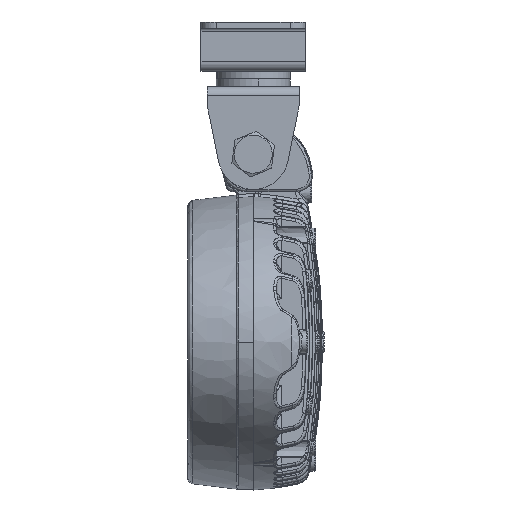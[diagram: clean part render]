
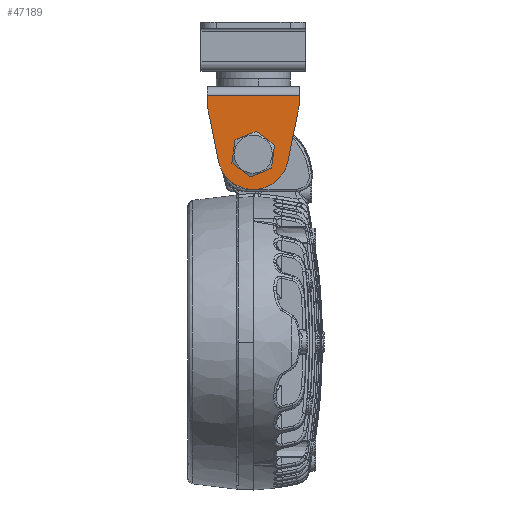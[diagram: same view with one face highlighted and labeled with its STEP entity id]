
A CAD part, left-side view. The second image highlights one B-rep face of the part: STEP entity #47189.
In plain terms, the highlighted planar face has unit normal (-1, 0, 0).
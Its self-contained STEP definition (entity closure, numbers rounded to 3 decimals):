
#8043 = CARTESIAN_POINT ( 'NONE',  ( -18.05, 0., -20. ) ) ;
#8087 = EDGE_CURVE ( 'NONE', #92948, #97919, #160375, .T. ) ;
#8983 = ORIENTED_EDGE ( 'NONE', *, *, #106782, .T. ) ;
#9784 = CIRCLE ( 'NONE', #17625, 11.5 ) ;
#10022 = DIRECTION ( 'NONE',  ( 0., -0.2, -0.98 ) ) ;
#11046 = CARTESIAN_POINT ( 'NONE',  ( -18.05, 11.268, -22.298 ) ) ;
#12124 = CARTESIAN_POINT ( 'NONE',  ( -18.05, 15., -1. ) ) ;
#13611 = CARTESIAN_POINT ( 'NONE',  ( -18.05, 14.798, -4.989 ) ) ;
#16540 = EDGE_CURVE ( 'NONE', #78103, #126643, #39984, .T. ) ;
#17625 = AXIS2_PLACEMENT_3D ( 'NONE', #8043, #101931, #21539 ) ;
#18190 = ORIENTED_EDGE ( 'NONE', *, *, #54169, .T. ) ;
#21539 = DIRECTION ( 'NONE',  ( 0., 0., -1. ) ) ;
#24259 = EDGE_CURVE ( 'NONE', #126643, #73922, #9784, .T. ) ;
#26685 = FACE_OUTER_BOUND ( 'NONE', #142876, .T. ) ;
#27276 = ORIENTED_EDGE ( 'NONE', *, *, #130574, .T. ) ;
#27814 = AXIS2_PLACEMENT_3D ( 'NONE', #66717, #160466, #80233 ) ;
#29656 = CARTESIAN_POINT ( 'NONE',  ( -18.05, -15., -1. ) ) ;
#31048 = CARTESIAN_POINT ( 'NONE',  ( -18.05, -11.268, -22.298 ) ) ;
#31282 = ORIENTED_EDGE ( 'NONE', *, *, #24259, .T. ) ;
#32423 = CARTESIAN_POINT ( 'NONE',  ( -18.05, 0., -20. ) ) ;
#35915 = ORIENTED_EDGE ( 'NONE', *, *, #165097, .T. ) ;
#39000 = CARTESIAN_POINT ( 'NONE',  ( -18.05, 15., -1. ) ) ;
#39984 = LINE ( 'NONE', #130239, #142788 ) ;
#41368 = VECTOR ( 'NONE', #172506, 1000. ) ;
#45911 = DIRECTION ( 'NONE',  ( 0., 0., -1. ) ) ;
#47189 = ADVANCED_FACE ( 'NONE', ( #93846, #26685 ), #114852, .F. ) ;
#50067 = CARTESIAN_POINT ( 'NONE',  ( -18.05, -14.798, -4.989 ) ) ;
#51664 = ORIENTED_EDGE ( 'NONE', *, *, #71252, .F. ) ;
#53351 = CARTESIAN_POINT ( 'NONE',  ( -18.05, 5., -2.991 ) ) ;
#54169 = EDGE_CURVE ( 'NONE', #128043, #170179, #137162, .T. ) ;
#54294 = AXIS2_PLACEMENT_3D ( 'NONE', #53351, #147156, #66846 ) ;
#56583 = AXIS2_PLACEMENT_3D ( 'NONE', #75401, #169088, #88955 ) ;
#64752 = CIRCLE ( 'NONE', #27814, 11.5 ) ;
#66717 = CARTESIAN_POINT ( 'NONE',  ( -18.05, 0., -20. ) ) ;
#66846 = DIRECTION ( 'NONE',  ( 0., 0., -1. ) ) ;
#67128 = ORIENTED_EDGE ( 'NONE', *, *, #142106, .T. ) ;
#70192 = LINE ( 'NONE', #39000, #172847 ) ;
#71252 = EDGE_CURVE ( 'NONE', #170386, #108552, #70192, .T. ) ;
#73922 = VERTEX_POINT ( 'NONE', #123539 ) ;
#75401 = CARTESIAN_POINT ( 'NONE',  ( -18.05, -5., -2.991 ) ) ;
#75525 = CARTESIAN_POINT ( 'NONE',  ( -18.05, 0., -15.75 ) ) ;
#78103 = VERTEX_POINT ( 'NONE', #13611 ) ;
#78864 = CARTESIAN_POINT ( 'NONE',  ( -18.05, 15., 0. ) ) ;
#80013 = CARTESIAN_POINT ( 'NONE',  ( -18.05, 0., -20. ) ) ;
#80233 = DIRECTION ( 'NONE',  ( 0., 0., -1. ) ) ;
#82193 = LINE ( 'NONE', #86346, #149313 ) ;
#86346 = CARTESIAN_POINT ( 'NONE',  ( -18.05, -15., 0. ) ) ;
#88494 = DIRECTION ( 'NONE',  ( 0., 0., -1. ) ) ;
#88955 = DIRECTION ( 'NONE',  ( 0., 0., -1. ) ) ;
#89563 = VERTEX_POINT ( 'NONE', #91323 ) ;
#91244 = CARTESIAN_POINT ( 'NONE',  ( -18.05, -14.585, -6.034 ) ) ;
#91323 = CARTESIAN_POINT ( 'NONE',  ( -18.05, 15., -2.991 ) ) ;
#92946 = DIRECTION ( 'NONE',  ( 0., -1., 0. ) ) ;
#92948 = VERTEX_POINT ( 'NONE', #136994 ) ;
#93555 = DIRECTION ( 'NONE',  ( 0., 0., -1. ) ) ;
#93846 = FACE_BOUND ( 'NONE', #99019, .T. ) ;
#95129 = AXIS2_PLACEMENT_3D ( 'NONE', #32423, #126258, #45911 ) ;
#97264 = ORIENTED_EDGE ( 'NONE', *, *, #100788, .F. ) ;
#97919 = VERTEX_POINT ( 'NONE', #75525 ) ;
#99019 = EDGE_LOOP ( 'NONE', ( #103004, #67128 ) ) ;
#100024 = LINE ( 'NONE', #91244, #167007 ) ;
#100788 = EDGE_CURVE ( 'NONE', #89563, #170386, #144141, .T. ) ;
#101383 = CARTESIAN_POINT ( 'NONE',  ( -18.05, 15., 0. ) ) ;
#101931 = DIRECTION ( 'NONE',  ( -1., 0., 0. ) ) ;
#103004 = ORIENTED_EDGE ( 'NONE', *, *, #8087, .T. ) ;
#104765 = DIRECTION ( 'NONE',  ( 0., -0.2, 0.98 ) ) ;
#106782 = EDGE_CURVE ( 'NONE', #108927, #128043, #100024, .T. ) ;
#108552 = VERTEX_POINT ( 'NONE', #29656 ) ;
#108927 = VERTEX_POINT ( 'NONE', #31048 ) ;
#109794 = AXIS2_PLACEMENT_3D ( 'NONE', #101383, #168622, #88494 ) ;
#113891 = ORIENTED_EDGE ( 'NONE', *, *, #16540, .T. ) ;
#114852 = PLANE ( 'NONE',  #109794 ) ;
#121107 = EDGE_CURVE ( 'NONE', #73922, #108927, #64752, .T. ) ;
#123539 = CARTESIAN_POINT ( 'NONE',  ( -18.05, 0., -31.5 ) ) ;
#126258 = DIRECTION ( 'NONE',  ( 1., 0., 0. ) ) ;
#126643 = VERTEX_POINT ( 'NONE', #11046 ) ;
#128043 = VERTEX_POINT ( 'NONE', #50067 ) ;
#130239 = CARTESIAN_POINT ( 'NONE',  ( -18.05, 15.783, -0.16 ) ) ;
#130574 = EDGE_CURVE ( 'NONE', #170179, #108552, #82193, .T. ) ;
#133234 = CIRCLE ( 'NONE', #54294, 10. ) ;
#136479 = ORIENTED_EDGE ( 'NONE', *, *, #121107, .T. ) ;
#136994 = CARTESIAN_POINT ( 'NONE',  ( -18.05, 0., -24.25 ) ) ;
#137162 = CIRCLE ( 'NONE', #56583, 10. ) ;
#142106 = EDGE_CURVE ( 'NONE', #97919, #92948, #164261, .T. ) ;
#142788 = VECTOR ( 'NONE', #10022, 1000. ) ;
#142876 = EDGE_LOOP ( 'NONE', ( #97264, #35915, #113891, #31282, #136479, #8983, #18190, #27276, #51664 ) ) ;
#144141 = LINE ( 'NONE', #78864, #41368 ) ;
#147156 = DIRECTION ( 'NONE',  ( -1., 0., 0. ) ) ;
#149313 = VECTOR ( 'NONE', #153101, 1000. ) ;
#150635 = CARTESIAN_POINT ( 'NONE',  ( -18.05, -15., -2.991 ) ) ;
#153101 = DIRECTION ( 'NONE',  ( 0., 0., 1. ) ) ;
#160375 = CIRCLE ( 'NONE', #173326, 4.25 ) ;
#160466 = DIRECTION ( 'NONE',  ( -1., 0., 0. ) ) ;
#164261 = CIRCLE ( 'NONE', #95129, 4.25 ) ;
#165097 = EDGE_CURVE ( 'NONE', #89563, #78103, #133234, .T. ) ;
#167007 = VECTOR ( 'NONE', #104765, 1000. ) ;
#168622 = DIRECTION ( 'NONE',  ( 1., 0., 0. ) ) ;
#169088 = DIRECTION ( 'NONE',  ( -1., 0., 0. ) ) ;
#170179 = VERTEX_POINT ( 'NONE', #150635 ) ;
#170386 = VERTEX_POINT ( 'NONE', #12124 ) ;
#172506 = DIRECTION ( 'NONE',  ( 0., 0., 1. ) ) ;
#172847 = VECTOR ( 'NONE', #92946, 1000. ) ;
#173326 = AXIS2_PLACEMENT_3D ( 'NONE', #80013, #173695, #93555 ) ;
#173695 = DIRECTION ( 'NONE',  ( 1., 0., 0. ) ) ;
